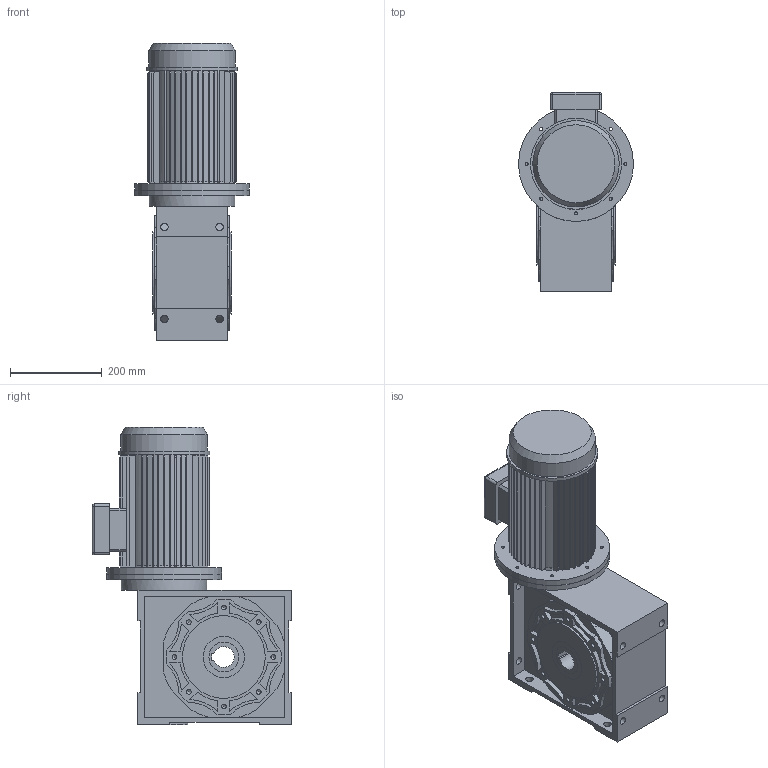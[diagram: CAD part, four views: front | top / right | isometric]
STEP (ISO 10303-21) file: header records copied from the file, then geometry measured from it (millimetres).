
FILE_DESCRIPTION( ( 'Unknown' ), '1' );
FILE_NAME( 'E:/services/configuratordownloads/customers/HYDROMEC/VSFQ/download/6B699991295E6339942DBD42D96F588/STEP/6B699991295E6339942DBD42D96F588.3d.stp', 'Unknown', ( 'Unknown' ), ( 'Unknown' ), 'PSStep 10.1', 'Unknown', ' ' );
FILE_SCHEMA( ( 'AUTOMOTIVE_DESIGN { 1 0 10303 214 1 1 1 1 }' ) );
Length unit declared in the file: millimetre
Products named in the file (1): Q13 cassa
Bounding box: 250 x 433.5 x 647.5 mm (x, y, z)
Volume: 22290943.7 mm3; surface area: 1216752.1 mm2
Topology: 1 solids, 3 shells, 663 faces, 1844 edges, 1229 vertices
Faces by surface type: plane 448, cylinder 160, cone 51, sphere 4
Full cylindrical faces by diameter (mm): 6.647 x8, 10.2 x16, 13.5 x4, 16 x12, 50 x2, 65 x2, 72 x1, 80 x1, 90 x3, 170 x1, 170.261 x1, 180 x3, 186 x1, 188 x1, 198 x1, 250 x3
Entity records: 25910 total; most frequent: CARTESIAN_POINT 3676, DIRECTION 3608, ORIENTED_EDGE 3396, EDGE_CURVE 1698, AXIS2_PLACEMENT_3D 1290, VERTEX_POINT 1182, LINE 1028, VECTOR 1028
